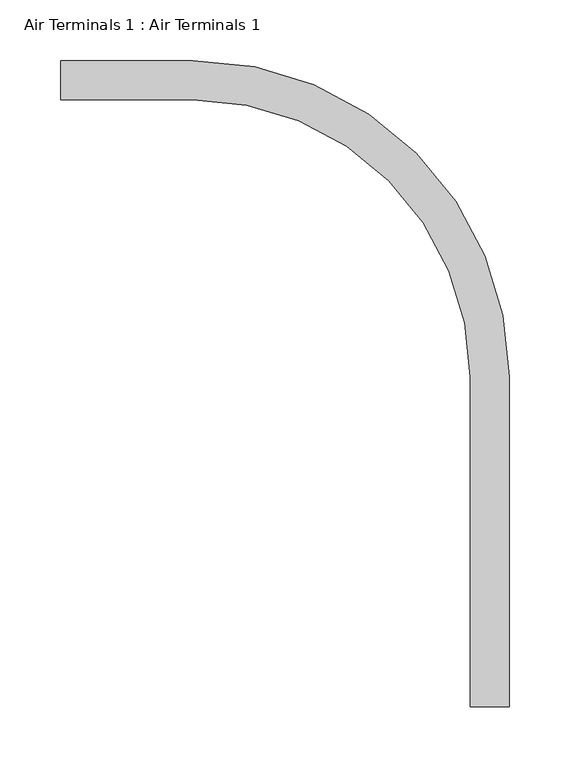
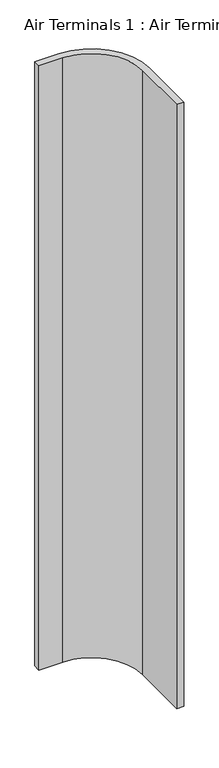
"""IFC4 building model written with IfcOpenShell, lengths in millimetres: air terminal geometry, Air Terminals 1 : Air Terminals 1."""

from ifc_helpers import new_model, si_unit, point, frame_2d, origin, origin_with_axes, place, context, project, spatial, polyline, circle_curve, trimmed, segment, composite_curve, outline, extrude, source, transform, mapped, element, save


def air_terminals_1_air_terminals_1_e812599d(model_context):
    return source(origin(), model_context, "Body", "SweptSolid", [
        extrude(outline(composite_curve([segment(trimmed(circle_curve(frame_2d((92645.0491725, 12878.0733743)), 260.0), [point((92645.0491725, 13138.0733743))], [point((92905.0491725, 12878.0733743))], False, "CARTESIAN"), True, "CONTINUOUS"), segment(polyline([(92905.0491725, 12878.0733743), (92905.0491725, 12606.9378228), (92873.0491725, 12606.9378228), (92873.0491725, 12878.0733743)]), True, "CONTINUOUS"), segment(trimmed(circle_curve(frame_2d((92645.0491725, 12878.0733743)), 228.0), [point((92873.0491725, 12878.0733743))], [point((92645.0491725, 13106.0733743))], True, "CARTESIAN"), True, "CONTINUOUS"), segment(polyline([(92645.0491725, 13106.0733743), (92536.4200281, 13106.0733743), (92536.4200281, 13138.0733743), (92645.0491725, 13138.0733743)]), True, "CONTINUOUS")], self_intersect=False)), origin_with_axes(), (0.0, 0.0, 1.0), 2900.0),
    ])


if __name__ == "__main__":
    model = new_model("IFC4")
    model_context = context("Model", 3, world=origin())
    ifc_project = project(units=[si_unit("LENGTHUNIT", "METRE", prefix="MILLI")], contexts=[model_context])
    site = spatial("IfcSite", under=ifc_project)
    building = spatial("IfcBuilding", under=site)
    placement = place(None, origin())
    air_terminals_1_air_terminals_1_shape = air_terminals_1_air_terminals_1_e812599d(model_context)
    element("IfcAirTerminal", 1, ObjectType="Air Terminals 1 : Air Terminals 1", at=placement, inside=building, context=model_context, shape_type="MappedRepresentation", body=[
        mapped(air_terminals_1_air_terminals_1_shape, transform((0.0, 0.0, 0.0), x_axis=(1.0, 0.0, 0.0), y_axis=(0.0, 1.0, 0.0), z_axis=(0.0, 0.0, 1.0))),
    ])
    save(model, "model.ifc")
